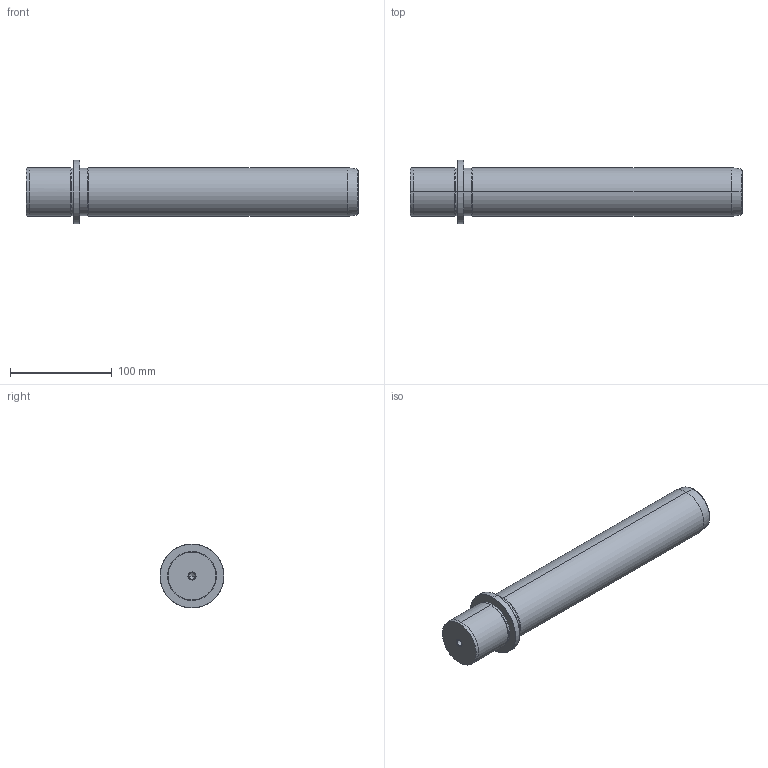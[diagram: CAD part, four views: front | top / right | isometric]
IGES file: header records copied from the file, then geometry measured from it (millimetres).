
Start section: START RECORD GO HERE.
Global section: file name: 719-48x280.igs; native system: DASSAULT SYSTEMES CATIA V5 R20 - www.3ds.com; preprocessor: CATIA Version 5 Release 20 ; author: Utente; organization: NB04-ASUS; date: 20210103.161544; units: millimetre
Bounding box: 327 x 63 x 63 mm (x, y, z)
Surface area: 56636.2 mm2 (no closed solid volume)
Topology: 0 solids, 0 shells, 36 faces, 196 edges, 192 vertices
Faces by surface type: revolution 32, plane 4
